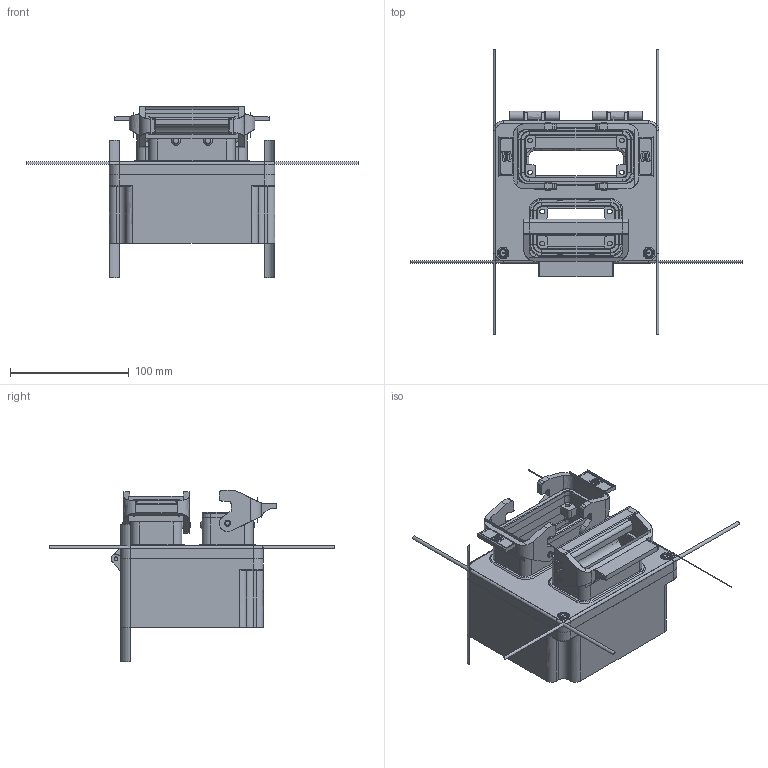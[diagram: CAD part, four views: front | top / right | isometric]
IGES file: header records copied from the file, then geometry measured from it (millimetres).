
Start section: Cimatron Iges convertor
Global section: file name: I:\k-box\cimatron\groesse_3\gr_3_16e_10e-ab.igs; native system: prt/Cimatron V13.10; preprocessor: Cimatron IGES (V5.3) Convertor V5.0.6.0; author: NONE; organization: NONE; date: 060821.192552; units: millimetre
Bounding box: 280.08 x 240.08 x 144.94 mm (x, y, z)
Surface area: 200669.7 mm2 (no closed solid volume)
Topology: 0 solids, 0 shells, 1438 faces, 7520 edges, 7687 vertices
Faces by surface type: bspline 1211, extrusion 137, revolution 90
